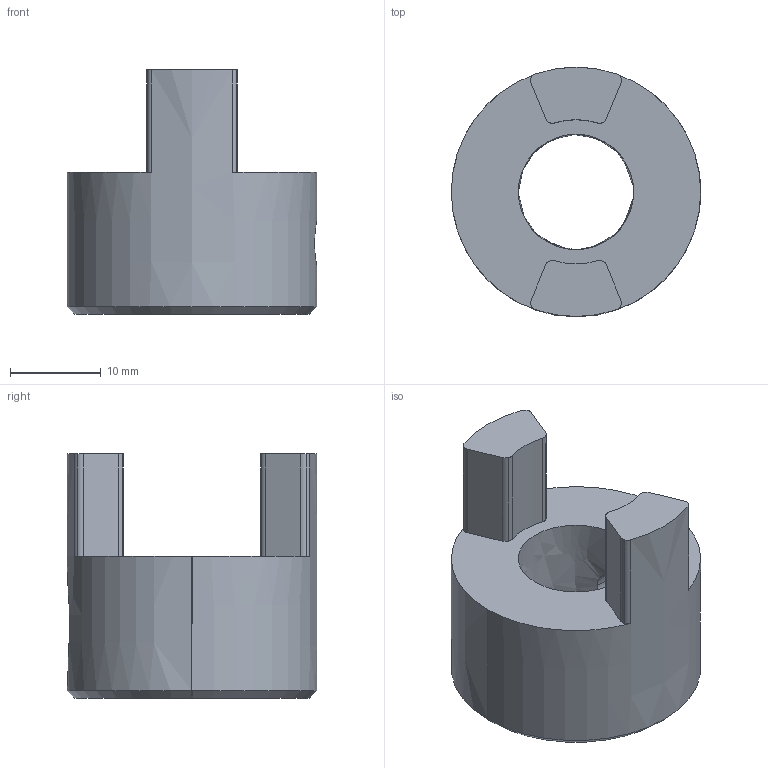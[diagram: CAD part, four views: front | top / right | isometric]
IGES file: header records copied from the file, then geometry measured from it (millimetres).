
Global section: file name: C:\Documents and Settings\Administrator\Desktop\Transfer Temp\lovejoy_l-050-0500.igs; native system: AutoDesk Inventor R2.0 ; preprocessor: AutoDesk Inventor Iges Exporter R2.0; author: No Author specified; organization: No Organization specified; date: 20011226.205748; units: inch
Bounding box: 27.43 x 27.43 x 26.85 mm (x, y, z)
Surface area: 3527.3 mm2 (no closed solid volume)
Topology: 0 solids, 0 shells, 36 faces, 208 edges, 208 vertices
Faces by surface type: revolution 24, bspline 12
